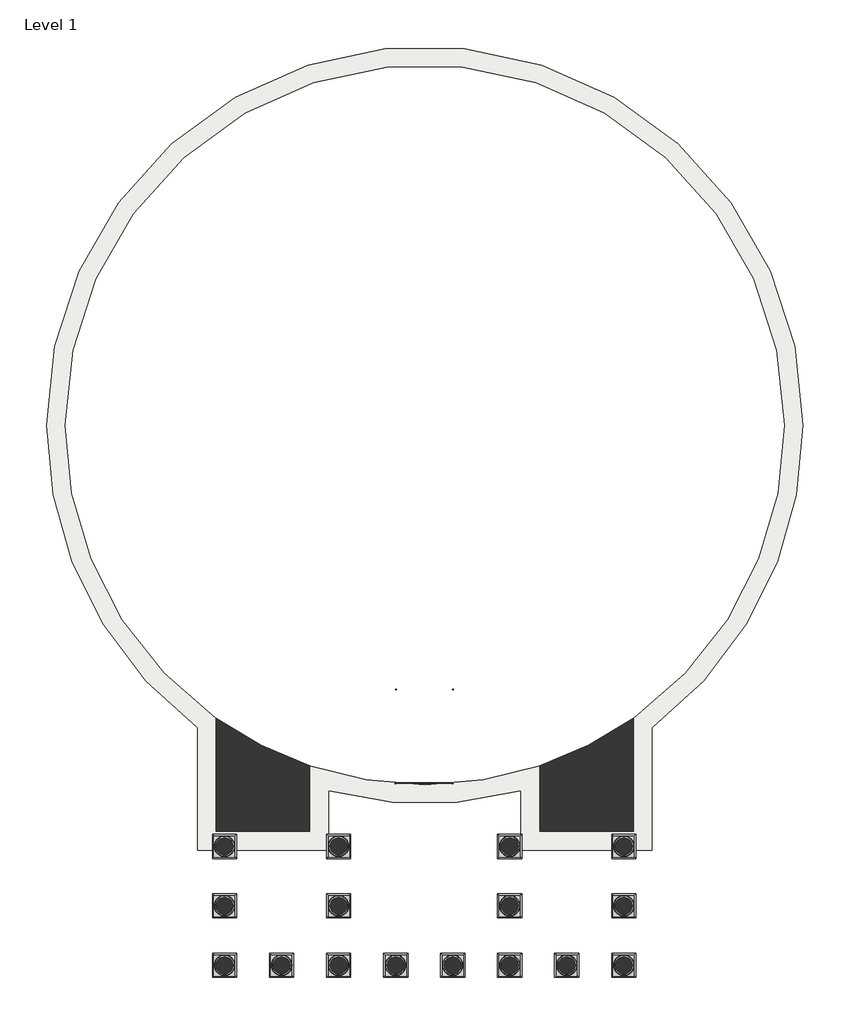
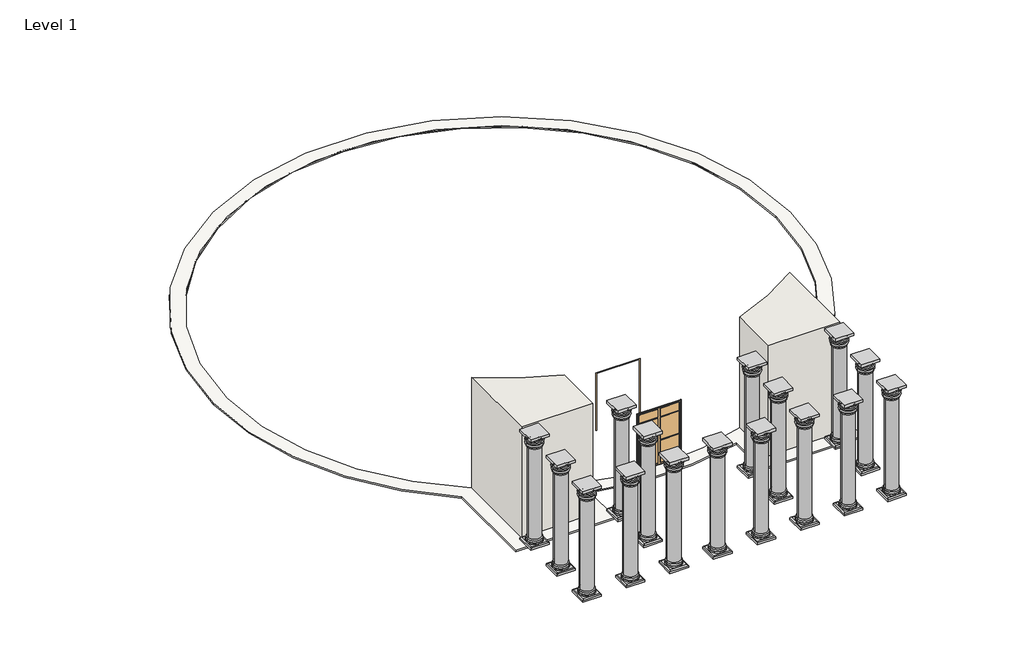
# One storey: 16 columns, 2 walls, 1 door, 1 slab.
"""IFC4 building model written with IfcOpenShell, lengths in millimetres."""

from ifc_helpers import new_model, si_unit, point, frame, frame_2d, origin, origin_with_axes, place, context, project, spatial, polyline, circle_curve, trimmed, segment, composite_curve, outline, extrude, transform, mapped, element, save
from components import column_31045826, double_panel_1_651bd410

model = new_model("IFC4")

# Units and contexts
model_context = context("Model", 3, world=origin())
ifc_project = project(units=[si_unit("LENGTHUNIT", "METRE", prefix="MILLI")], contexts=[model_context])

# Site, building, storey
site = spatial("IfcSite", under=ifc_project)
building = spatial("IfcBuilding", under=site)
storey = spatial("IfcBuildingStorey", under=building, Name="Level 1", Elevation=0.0)

# Columns
placement = place(None, origin())
column_shape = column_31045826(model_context)
element("IfcColumn", 1, ObjectType="Pantheon Column : Pantheon Column: Portico", at=placement, inside=storey, context=model_context, shape_type="MappedRepresentation", body=[
    mapped(column_shape, transform((-13837.9394198, -32311.080615, 0.0), x_axis=(1.0, 0.0, 0.0), y_axis=(0.0, 1.0, 0.0), z_axis=(0.0, 0.0, 1.0))),
])
element("IfcColumn", 2, ObjectType="Pantheon Column : Pantheon Column: Portico", at=placement, inside=storey, context=model_context, shape_type="MappedRepresentation", body=[
    mapped(column_shape, transform((-13837.9394198, -37156.9161207, 0.0), x_axis=(1.0, 0.0, 0.0), y_axis=(0.0, 1.0, 0.0), z_axis=(0.0, 0.0, 1.0))),
])
element("IfcColumn", 3, ObjectType="Pantheon Column : Pantheon Column: Portico", at=placement, inside=storey, context=model_context, shape_type="MappedRepresentation", body=[
    mapped(column_shape, transform((-13837.9394198, -42002.7516264, 0.0), x_axis=(1.0, 0.0, 0.0), y_axis=(0.0, 1.0, 0.0), z_axis=(0.0, 0.0, 1.0))),
])
element("IfcColumn", 4, ObjectType="Pantheon Column : Pantheon Column: Portico", at=placement, inside=storey, context=model_context, shape_type="MappedRepresentation", body=[
    mapped(column_shape, transform((-4536.8572351, -32311.080615, 0.0), x_axis=(1.0, 0.0, 0.0), y_axis=(0.0, 1.0, 0.0), z_axis=(0.0, 0.0, 1.0))),
])
element("IfcColumn", 5, ObjectType="Pantheon Column : Pantheon Column: Portico", at=placement, inside=storey, context=model_context, shape_type="MappedRepresentation", body=[
    mapped(column_shape, transform((-4536.8572351, -37156.9161207, 0.0), x_axis=(1.0, 0.0, 0.0), y_axis=(0.0, 1.0, 0.0), z_axis=(0.0, 0.0, 1.0))),
])
element("IfcColumn", 6, ObjectType="Pantheon Column : Pantheon Column: Portico", at=placement, inside=storey, context=model_context, shape_type="MappedRepresentation", body=[
    mapped(column_shape, transform((-4536.8572351, -42002.7516264, 0.0), x_axis=(1.0, 0.0, 0.0), y_axis=(0.0, 1.0, 0.0), z_axis=(0.0, 0.0, 1.0))),
])
element("IfcColumn", 7, ObjectType="Pantheon Column : Pantheon Column: Portico", at=placement, inside=storey, context=model_context, shape_type="MappedRepresentation", body=[
    mapped(column_shape, transform((9414.7660421, -32311.080615, 0.0), x_axis=(1.0, 0.0, 0.0), y_axis=(0.0, 1.0, 0.0), z_axis=(0.0, 0.0, 1.0))),
])
element("IfcColumn", 8, ObjectType="Pantheon Column : Pantheon Column: Portico", at=placement, inside=storey, context=model_context, shape_type="MappedRepresentation", body=[
    mapped(column_shape, transform((9414.7660421, -37156.9161207, 0.0), x_axis=(1.0, 0.0, 0.0), y_axis=(0.0, 1.0, 0.0), z_axis=(0.0, 0.0, 1.0))),
])
element("IfcColumn", 9, ObjectType="Pantheon Column : Pantheon Column: Portico", at=placement, inside=storey, context=model_context, shape_type="MappedRepresentation", body=[
    mapped(column_shape, transform((9414.7660421, -42002.7516264, 0.0), x_axis=(1.0, 0.0, 0.0), y_axis=(0.0, 1.0, 0.0), z_axis=(0.0, 0.0, 1.0))),
])
element("IfcColumn", 10, ObjectType="Pantheon Column : Pantheon Column: Portico", at=placement, inside=storey, context=model_context, shape_type="MappedRepresentation", body=[
    mapped(column_shape, transform((18715.8482268, -32311.080615, 0.0), x_axis=(1.0, 0.0, 0.0), y_axis=(0.0, 1.0, 0.0), z_axis=(0.0, 0.0, 1.0))),
])
element("IfcColumn", 11, ObjectType="Pantheon Column : Pantheon Column: Portico", at=placement, inside=storey, context=model_context, shape_type="MappedRepresentation", body=[
    mapped(column_shape, transform((18715.8482268, -37156.9161207, 0.0), x_axis=(1.0, 0.0, 0.0), y_axis=(0.0, 1.0, 0.0), z_axis=(0.0, 0.0, 1.0))),
])
element("IfcColumn", 12, ObjectType="Pantheon Column : Pantheon Column: Portico", at=placement, inside=storey, context=model_context, shape_type="MappedRepresentation", body=[
    mapped(column_shape, transform((18715.8482268, -42002.7516264, 0.0), x_axis=(1.0, 0.0, 0.0), y_axis=(0.0, 1.0, 0.0), z_axis=(0.0, 0.0, 1.0))),
])
element("IfcColumn", 13, ObjectType="Pantheon Column : Pantheon Column: Portico", at=placement, inside=storey, context=model_context, shape_type="MappedRepresentation", body=[
    mapped(column_shape, transform((14065.3071344, -42002.7516264, 0.0), x_axis=(1.0, 0.0, 0.0), y_axis=(0.0, 1.0, 0.0), z_axis=(0.0, 0.0, 1.0))),
])
element("IfcColumn", 14, ObjectType="Pantheon Column : Pantheon Column: Portico", at=placement, inside=storey, context=model_context, shape_type="MappedRepresentation", body=[
    mapped(column_shape, transform((4764.2249497, -42002.7516264, 0.0), x_axis=(1.0, 0.0, 0.0), y_axis=(0.0, 1.0, 0.0), z_axis=(0.0, 0.0, 1.0))),
])
element("IfcColumn", 15, ObjectType="Pantheon Column : Pantheon Column: Portico", at=placement, inside=storey, context=model_context, shape_type="MappedRepresentation", body=[
    mapped(column_shape, transform((113.6838573, -42002.7516264, 0.0), x_axis=(1.0, 0.0, 0.0), y_axis=(0.0, 1.0, 0.0), z_axis=(0.0, 0.0, 1.0))),
])
element("IfcColumn", 16, ObjectType="Pantheon Column : Pantheon Column: Portico", at=placement, inside=storey, context=model_context, shape_type="MappedRepresentation", body=[
    mapped(column_shape, transform((-9187.3983274, -42002.7516264, 0.0), x_axis=(1.0, 0.0, 0.0), y_axis=(0.0, 1.0, 0.0), z_axis=(0.0, 0.0, 1.0))),
])

# Door
double_panel_1_shape = double_panel_1_651bd410(model_context)
element("IfcDoor", 17, ObjectType="Double-Panel 1 : Pantheon Bronze Door", at=placement, inside=storey, context=model_context, shape_type="MappedRepresentation", body=[
    mapped(double_panel_1_shape, transform((2443.8750524, -23361.532153, 0.0), x_axis=(-0.9999986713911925, 0.0016300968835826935, 0.0), y_axis=(-0.0016300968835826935, -0.9999986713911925, 0.0), z_axis=(0.0, 0.0, 1.0))),
])

# Slab
element("IfcSlab", 18, ObjectType="Cobblestone", at=placement, inside=storey, context=model_context, shape_type="SweptSolid", body=[
    extrude(outline(composite_curve([segment(trimmed(circle_curve(frame_2d((2485.2482268, 2019.2411242)), 30835.6), [point((-28350.3517732, 2019.2411242))], [point((33320.8482268, 2019.2411242))], False, "CARTESIAN"), True, "CONTINUOUS"), segment(trimmed(circle_curve(frame_2d((2485.2482268, 2019.2411242)), 30835.6), [point((33320.8482268, 2019.2411242))], [point((21001.8482268, -22637.8015168))], False, "CARTESIAN"), True, "CONTINUOUS"), segment(polyline([(21001.8482268, -22637.8015168), (21001.8482268, -32615.880615), (10333.8482268, -32615.880615), (10333.8482268, -27800.7807638)]), True, "CONTINUOUS"), segment(trimmed(circle_curve(frame_2d((2485.2482268, 2019.2411242)), 30835.6), [point((10333.8482268, -27800.7807638))], [point((-5363.3517732, -27800.7807638))], False, "CARTESIAN"), True, "CONTINUOUS"), segment(polyline([(-5363.3517732, -27800.7807638), (-5363.3517732, -32615.880615), (-16031.3517732, -32615.880615), (-16031.3517732, -22637.8015168)]), True, "CONTINUOUS"), segment(trimmed(circle_curve(frame_2d((2485.2482268, 2019.2411242)), 30835.6), [point((-16031.3517732, -22637.8015168))], [point((-28350.3517732, 2019.2411242))], False, "CARTESIAN"), True, "CONTINUOUS")], self_intersect=False), holes=[composite_curve([segment(trimmed(circle_curve(frame_2d((2485.2482268, 2019.2411242)), 29311.6), [point((19477.8482268, -21864.256103))], [point((31796.8482268, 2019.2411242))], True, "CARTESIAN"), True, "CONTINUOUS"), segment(trimmed(circle_curve(frame_2d((2485.2482268, 2019.2411242)), 29311.6), [point((31796.8482268, 2019.2411242))], [point((-26826.3517732, 2019.2411242))], True, "CARTESIAN"), True, "CONTINUOUS"), segment(trimmed(circle_curve(frame_2d((2485.2482268, 2019.2411242)), 29311.6), [point((-26826.3517732, 2019.2411242))], [point((-14507.3517732, -21864.256103))], True, "CARTESIAN"), True, "CONTINUOUS"), segment(polyline([(-14507.3517732, -21864.256103), (-14507.3517732, -31091.880615), (-6887.3517732, -31091.880615), (-6887.3517732, -25753.4840536)]), True, "CONTINUOUS"), segment(trimmed(circle_curve(frame_2d((2485.2482268, 2019.2411242)), 29311.6), [point((-6887.3517732, -25753.4840536))], [point((11857.8482268, -25753.4840536))], True, "CARTESIAN"), True, "CONTINUOUS"), segment(polyline([(11857.8482268, -25753.4840536), (11857.8482268, -31091.880615), (19477.8482268, -31091.880615), (19477.8482268, -21864.256103)]), True, "CONTINUOUS")], self_intersect=False)]), frame((0.0, 0.0, -152.4), z_axis=(0.0, 0.0, 1.0), x_axis=(1.0, 0.0, 0.0)), (0.0, 0.0, 1.0), 152.4),
])

# Walls
element("IfcWall", 19, ObjectType="Pantheon Walls 25' Portico/Lower", at=placement, inside=storey, context=model_context, shape_type="SweptSolid", body=[
    extrude(outline(composite_curve([segment(polyline([(-14507.3517732, -31091.880615), (-14507.3517732, -21864.256103)]), True, "CONTINUOUS"), segment(trimmed(circle_curve(frame_2d((2485.2482268, 2019.2411242)), 29311.6), [point((-14507.3517732, -21864.256103))], [point((-6887.3517732, -25753.4840536))], True, "CARTESIAN"), True, "CONTINUOUS"), segment(polyline([(-6887.3517732, -25753.4840536), (-6887.3517732, -31091.880615), (-14507.3517732, -31091.880615)]), True, "CONTINUOUS")], self_intersect=False)), origin_with_axes(), (0.0, 0.0, 1.0), 12496.8),
])
element("IfcWall", 20, ObjectType="Pantheon Walls 25' Portico/Lower", at=placement, inside=storey, context=model_context, shape_type="SweptSolid", body=[
    extrude(outline(composite_curve([segment(polyline([(11857.8482268, -31091.880615), (11857.8482268, -25753.4840536)]), True, "CONTINUOUS"), segment(trimmed(circle_curve(frame_2d((2485.2482268, 2019.2411242)), 29311.6), [point((11857.8482268, -25753.4840536))], [point((19477.8482268, -21864.256103))], True, "CARTESIAN"), True, "CONTINUOUS"), segment(polyline([(19477.8482268, -21864.256103), (19477.8482268, -31091.880615), (11857.8482268, -31091.880615)]), True, "CONTINUOUS")], self_intersect=False)), origin_with_axes(), (0.0, 0.0, 1.0), 12496.8),
])

save(model, "model.ifc")
